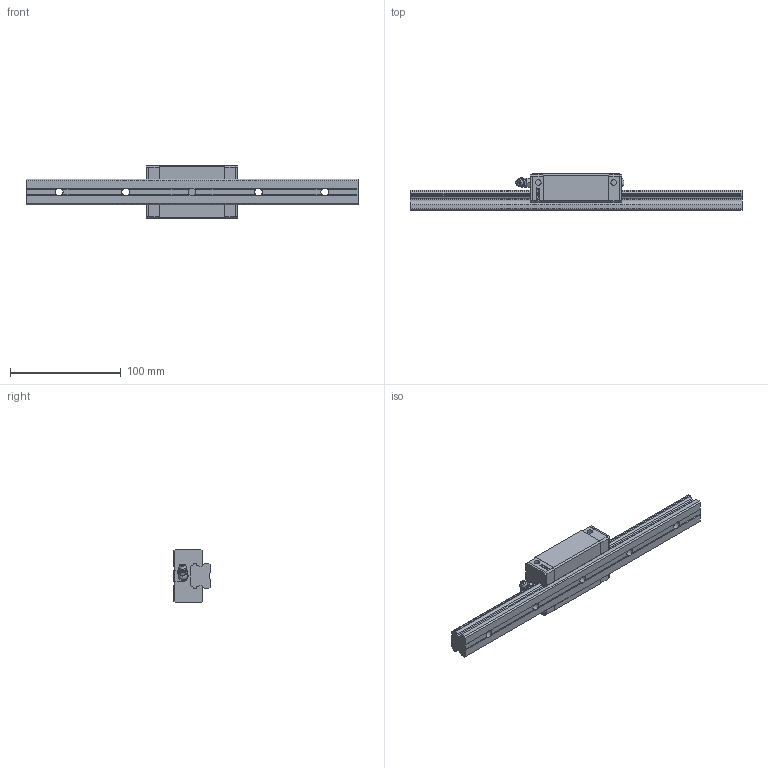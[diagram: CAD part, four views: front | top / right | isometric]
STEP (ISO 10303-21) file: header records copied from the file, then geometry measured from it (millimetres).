
FILE_DESCRIPTION(/* description */ (''),/* implementation_level */ '2;1');
FILE_NAME(/* name */ 'D:\3D網頁資料庫\Download\3D\EGH25CA1R300Z0C_GW202101009166\EGH25CA1R300Z0C_GW202101009166.stp',/* time_stamp */ '2021-01-20T15:00:04+08:00',/* author */ ('tim.lin'),/* organization */ (''),/* preprocessor_version */ 'ST-DEVELOPER v16.13',/* originating_system */ 'Autodesk Inventor 2018',/* authorisation */ '');
FILE_SCHEMA (('AUTOMOTIVE_DESIGN { 1 0 10303 214 3 1 1 }'));
Products named in the file (5): EGH25CA1R300Z0C_GW202101009166; EGR25_temp-1; EGH25C_右封_temp; 34320001; M6H
Assembly tree (4 placements, depth 2):
  EGH25CA1R300Z0C_GW202101009166
    EGR25_temp-1
    EGH25C_右封_temp
    34320001
    M6H
Bounding box: 300 x 33 x 48 mm (x, y, z)
Volume: 185801.2 mm3; surface area: 54108.8 mm2
Topology: 8 solids, 9 shells, 770 faces, 2099 edges, 1377 vertices
Faces by surface type: plane 539, cylinder 148, bspline 61, cone 18, sphere 3, torus 1
Full cylindrical faces by diameter (mm): 1 x2, 2 x1, 4.917 x4, 5 x4, 6 x6, 7 x5, 7.3 x2, 8 x2, 11 x5
Entity records: 25533 total; most frequent: CARTESIAN_POINT 6186, ORIENTED_EDGE 4098, DIRECTION 3723, EDGE_CURVE 2049, LINE 1549, VECTOR 1549, VERTEX_POINT 1363, AXIS2_PLACEMENT_3D 1087
